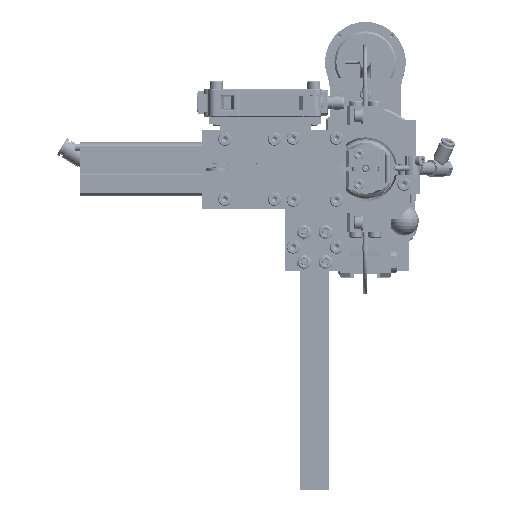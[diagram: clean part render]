
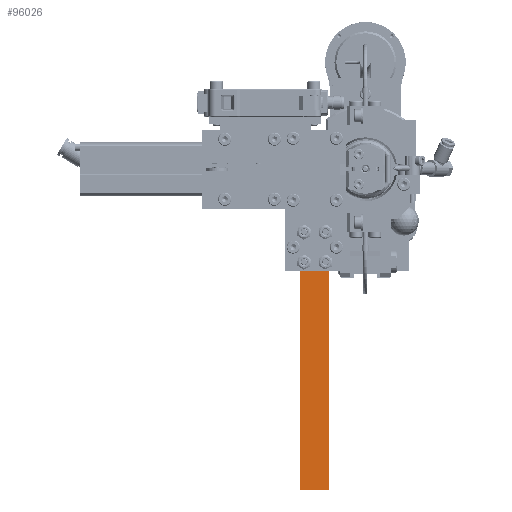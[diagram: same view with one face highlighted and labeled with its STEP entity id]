
A CAD part, left-side view. The second image highlights one B-rep face of the part: STEP entity #96026.
In plain terms, the highlighted planar face has unit normal (-1, 0, 0).
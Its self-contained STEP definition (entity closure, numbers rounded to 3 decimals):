
#18420=FACE_OUTER_BOUND($,#25252,.T.);
#25252=EDGE_LOOP($,(#72270,#72271,#72272,#72273));
#32165=LINE($,#165813,#38486);
#32173=LINE($,#165831,#38494);
#32174=LINE($,#165833,#38495);
#32175=LINE($,#165834,#38496);
#38486=VECTOR($,#118179,117.);
#38494=VECTOR($,#118193,15.5);
#38495=VECTOR($,#118194,15.5);
#38496=VECTOR($,#118195,117.);
#46864=VERTEX_POINT($,#165807);
#46866=VERTEX_POINT($,#165811);
#46873=VERTEX_POINT($,#165830);
#46874=VERTEX_POINT($,#165832);
#56634=EDGE_CURVE($,#46864,#46866,#32165,.T.);
#56642=EDGE_CURVE($,#46864,#46873,#32173,.T.);
#56643=EDGE_CURVE($,#46866,#46874,#32174,.T.);
#56644=EDGE_CURVE($,#46873,#46874,#32175,.T.);
#72270=ORIENTED_EDGE($,*,*,#56642,.F.);
#72271=ORIENTED_EDGE($,*,*,#56634,.T.);
#72272=ORIENTED_EDGE($,*,*,#56643,.T.);
#72273=ORIENTED_EDGE($,*,*,#56644,.F.);
#91909=PLANE($,#103668);
#96026=ADVANCED_FACE($,(#18420),#91909,.T.);
#103668=AXIS2_PLACEMENT_3D($,#165829,#118191,#118192);
#118179=DIRECTION($,(0.,0.,-1.));
#118191=DIRECTION('center_axis',(-1.,0.,0.));
#118192=DIRECTION('ref_axis',(0.,0.,1.));
#118193=DIRECTION($,(0.,-1.,0.));
#118194=DIRECTION($,(0.,-1.,0.));
#118195=DIRECTION($,(0.,0.,-1.));
#165807=CARTESIAN_POINT('',(-321.3,34.75,4.));
#165811=CARTESIAN_POINT('',(-321.3,34.75,-113.));
#165813=CARTESIAN_POINT($,(-321.3,34.75,4.));
#165829=CARTESIAN_POINT('Origin',(-321.3,34.75,37.));
#165830=CARTESIAN_POINT('',(-321.3,19.25,4.));
#165831=CARTESIAN_POINT($,(-321.3,34.75,4.));
#165832=CARTESIAN_POINT('',(-321.3,19.25,-113.));
#165833=CARTESIAN_POINT($,(-321.3,34.75,-113.));
#165834=CARTESIAN_POINT($,(-321.3,19.25,4.));
